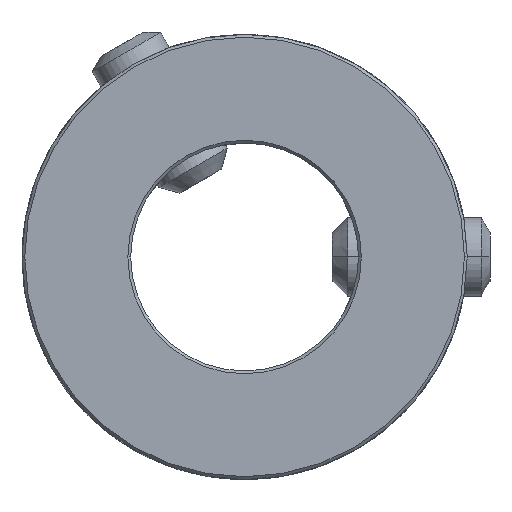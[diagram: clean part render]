
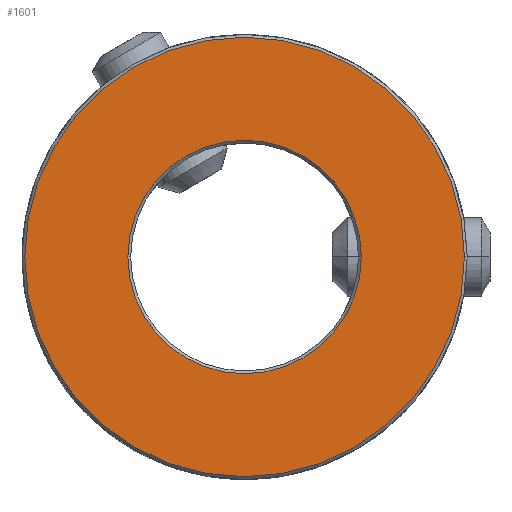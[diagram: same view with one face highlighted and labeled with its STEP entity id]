
A CAD part, front view. The second image highlights one B-rep face of the part: STEP entity #1601.
In plain terms, the highlighted planar face has unit normal (0, -1, 0).
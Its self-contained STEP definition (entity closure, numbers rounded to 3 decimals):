
#2=CARTESIAN_POINT('',(0.,-27.,
0.));
#3=DIRECTION('',(0.,-1.,0.));
#4=DIRECTION('',(1.,0.,0.));
#5=AXIS2_PLACEMENT_3D('',#2,#3,#4);
#7=CARTESIAN_POINT('',(0.,-27.,
0.));
#8=DIRECTION('',(0.,-1.,0.));
#9=DIRECTION('',(-1.,0.,0.));
#10=AXIS2_PLACEMENT_3D('',#7,#8,#9);
#12=CARTESIAN_POINT('',(0.,-27.,
0.));
#13=DIRECTION('',(0.,1.,0.));
#14=DIRECTION('',(1.,0.,0.));
#15=AXIS2_PLACEMENT_3D('',#12,#13,#14);
#17=CARTESIAN_POINT('',(0.,-27.,0.));
#18=DIRECTION('',(0.,1.,0.));
#19=DIRECTION('',(-1.,0.,0.));
#20=AXIS2_PLACEMENT_3D('',#17,#18,#19);
#1456=CARTESIAN_POINT('',(13.32,-27.,0.));
#1457=CARTESIAN_POINT('',(-13.32,-27.,0.));
#1458=VERTEX_POINT('',#1456);
#1459=VERTEX_POINT('',#1457);
#1472=CARTESIAN_POINT('',(25.08,-27.,0.));
#1473=CARTESIAN_POINT('',(-25.08,-27.,0.));
#1474=VERTEX_POINT('',#1472);
#1475=VERTEX_POINT('',#1473);
#1584=CARTESIAN_POINT('',(0.,-27.,0.));
#1585=DIRECTION('',(0.,1.,0.));
#1586=DIRECTION('',(1.,0.,0.));
#1587=AXIS2_PLACEMENT_3D('',#1584,#1585,#1586);
#1588=PLANE('',#1587);
#1590=ORIENTED_EDGE('',*,*,#1589,.F.);
#1592=ORIENTED_EDGE('',*,*,#1591,.F.);
#1593=EDGE_LOOP('',(#1590,#1592));
#1594=FACE_OUTER_BOUND('',#1593,.F.);
#1596=ORIENTED_EDGE('',*,*,#1595,.F.);
#1598=ORIENTED_EDGE('',*,*,#1597,.F.);
#1599=EDGE_LOOP('',(#1596,#1598));
#1600=FACE_BOUND('',#1599,.F.);
#1601=ADVANCED_FACE('',(#1594,#1600),#1588,.F.);
#6=CIRCLE('',#5,25.08);
#11=CIRCLE('',#10,25.08);
#16=CIRCLE('',#15,13.32);
#21=CIRCLE('',#20,13.32);
#1589=EDGE_CURVE('',#1474,#1475,#6,.T.);
#1591=EDGE_CURVE('',#1475,#1474,#11,.T.);
#1595=EDGE_CURVE('',#1458,#1459,#16,.T.);
#1597=EDGE_CURVE('',#1459,#1458,#21,.T.);
